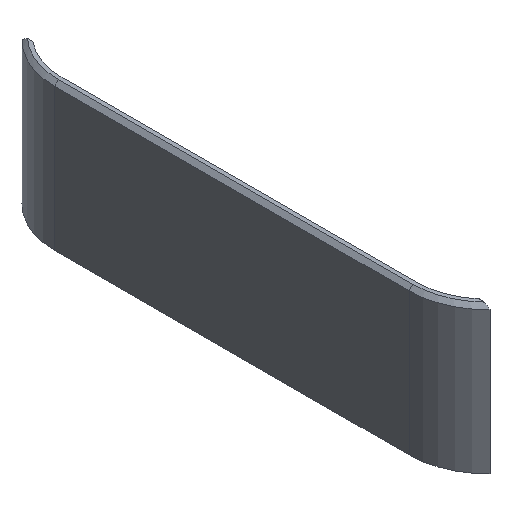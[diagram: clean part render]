
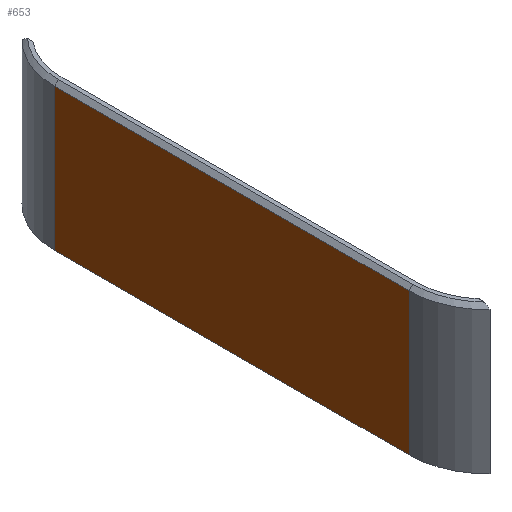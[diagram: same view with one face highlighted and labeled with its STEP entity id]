
A CAD part, isometric view. The second image highlights one B-rep face of the part: STEP entity #653.
In plain terms, the highlighted planar face has unit normal (-1, 0, 0).
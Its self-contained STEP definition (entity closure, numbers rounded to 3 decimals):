
#32 = PLANE('',#33);
#33 = AXIS2_PLACEMENT_3D('',#34,#35,#36);
#34 = CARTESIAN_POINT('',(39.789,-81.,41.5));
#35 = DIRECTION('',(0.,0.,-1.));
#36 = DIRECTION('',(1.,0.,0.));
#57 = VERTEX_POINT('',#58);
#58 = CARTESIAN_POINT('',(-131.338,-120.11,41.5));
#77 = CYLINDRICAL_SURFACE('',#78,17.35);
#78 = AXIS2_PLACEMENT_3D('',#79,#80,#81);
#79 = CARTESIAN_POINT('',(-113.988,-120.11,41.5));
#80 = DIRECTION('',(0.,0.,-1.));
#81 = DIRECTION('',(0.,1.,0.));
#89 = EDGE_CURVE('',#90,#57,#92,.T.);
#90 = VERTEX_POINT('',#91);
#91 = CARTESIAN_POINT('',(-131.338,-41.89,41.5));
#92 = SURFACE_CURVE('',#93,(#97,#104),.PCURVE_S1.);
#93 = LINE('',#94,#95);
#94 = CARTESIAN_POINT('',(-131.338,-26.89,41.5));
#95 = VECTOR('',#96,1.);
#96 = DIRECTION('',(0.,-1.,0.));
#97 = PCURVE('',#32,#98);
#98 = DEFINITIONAL_REPRESENTATION('',(#99),#103);
#99 = LINE('',#100,#101);
#100 = CARTESIAN_POINT('',(-171.126,-54.11));
#101 = VECTOR('',#102,1.);
#102 = DIRECTION('',(0.,1.));
#103 = ( GEOMETRIC_REPRESENTATION_CONTEXT(2) 
PARAMETRIC_REPRESENTATION_CONTEXT() REPRESENTATION_CONTEXT('2D SPACE',''
  ) );
#104 = PCURVE('',#105,#110);
#105 = PLANE('',#106);
#106 = AXIS2_PLACEMENT_3D('',#107,#108,#109);
#107 = CARTESIAN_POINT('',(-131.338,-41.89,41.5));
#108 = DIRECTION('',(1.,0.,0.));
#109 = DIRECTION('',(0.,-1.,0.));
#110 = DEFINITIONAL_REPRESENTATION('',(#111),#115);
#111 = LINE('',#112,#113);
#112 = CARTESIAN_POINT('',(-15.,0.));
#113 = VECTOR('',#114,1.);
#114 = DIRECTION('',(1.,0.));
#115 = ( GEOMETRIC_REPRESENTATION_CONTEXT(2) 
PARAMETRIC_REPRESENTATION_CONTEXT() REPRESENTATION_CONTEXT('2D SPACE',''
  ) );
#134 = CYLINDRICAL_SURFACE('',#135,17.35);
#135 = AXIS2_PLACEMENT_3D('',#136,#137,#138);
#136 = CARTESIAN_POINT('',(-113.988,-41.89,41.5));
#137 = DIRECTION('',(0.,-0.,-1.));
#138 = DIRECTION('',(0.,1.,0.));
#608 = EDGE_CURVE('',#90,#609,#611,.T.);
#609 = VERTEX_POINT('',#610);
#610 = CARTESIAN_POINT('',(-131.338,-41.89,72.85));
#611 = SURFACE_CURVE('',#612,(#616,#623),.PCURVE_S1.);
#612 = LINE('',#613,#614);
#613 = CARTESIAN_POINT('',(-131.338,-41.89,41.5));
#614 = VECTOR('',#615,1.);
#615 = DIRECTION('',(0.,0.,1.));
#616 = PCURVE('',#134,#617);
#617 = DEFINITIONAL_REPRESENTATION('',(#618),#622);
#618 = LINE('',#619,#620);
#619 = CARTESIAN_POINT('',(4.712,0.));
#620 = VECTOR('',#621,1.);
#621 = DIRECTION('',(0.,-1.));
#622 = ( GEOMETRIC_REPRESENTATION_CONTEXT(2) 
PARAMETRIC_REPRESENTATION_CONTEXT() REPRESENTATION_CONTEXT('2D SPACE',''
  ) );
#623 = PCURVE('',#105,#624);
#624 = DEFINITIONAL_REPRESENTATION('',(#625),#629);
#625 = LINE('',#626,#627);
#626 = CARTESIAN_POINT('',(0.,0.));
#627 = VECTOR('',#628,1.);
#628 = DIRECTION('',(0.,-1.));
#629 = ( GEOMETRIC_REPRESENTATION_CONTEXT(2) 
PARAMETRIC_REPRESENTATION_CONTEXT() REPRESENTATION_CONTEXT('2D SPACE',''
  ) );
#653 = ADVANCED_FACE('',(#654),#105,.F.);
#654 = FACE_BOUND('',#655,.F.);
#655 = EDGE_LOOP('',(#656,#657,#685,#706));
#656 = ORIENTED_EDGE('',*,*,#608,.T.);
#657 = ORIENTED_EDGE('',*,*,#658,.T.);
#658 = EDGE_CURVE('',#609,#659,#661,.T.);
#659 = VERTEX_POINT('',#660);
#660 = CARTESIAN_POINT('',(-131.338,-120.11,72.85));
#661 = SURFACE_CURVE('',#662,(#666,#673),.PCURVE_S1.);
#662 = LINE('',#663,#664);
#663 = CARTESIAN_POINT('',(-131.338,-26.89,72.85));
#664 = VECTOR('',#665,1.);
#665 = DIRECTION('',(0.,-1.,0.));
#666 = PCURVE('',#105,#667);
#667 = DEFINITIONAL_REPRESENTATION('',(#668),#672);
#668 = LINE('',#669,#670);
#669 = CARTESIAN_POINT('',(-15.,-31.35));
#670 = VECTOR('',#671,1.);
#671 = DIRECTION('',(1.,0.));
#672 = ( GEOMETRIC_REPRESENTATION_CONTEXT(2) 
PARAMETRIC_REPRESENTATION_CONTEXT() REPRESENTATION_CONTEXT('2D SPACE',''
  ) );
#673 = PCURVE('',#674,#679);
#674 = PLANE('',#675);
#675 = AXIS2_PLACEMENT_3D('',#676,#677,#678);
#676 = CARTESIAN_POINT('',(-130.488,-26.89,73.7));
#677 = DIRECTION('',(-0.707,0.,0.707)
  );
#678 = DIRECTION('',(0.,-1.,0.));
#679 = DEFINITIONAL_REPRESENTATION('',(#680),#684);
#680 = LINE('',#681,#682);
#681 = CARTESIAN_POINT('',(0.,-1.202));
#682 = VECTOR('',#683,1.);
#683 = DIRECTION('',(1.,0.));
#684 = ( GEOMETRIC_REPRESENTATION_CONTEXT(2) 
PARAMETRIC_REPRESENTATION_CONTEXT() REPRESENTATION_CONTEXT('2D SPACE',''
  ) );
#685 = ORIENTED_EDGE('',*,*,#686,.F.);
#686 = EDGE_CURVE('',#57,#659,#687,.T.);
#687 = SURFACE_CURVE('',#688,(#692,#699),.PCURVE_S1.);
#688 = LINE('',#689,#690);
#689 = CARTESIAN_POINT('',(-131.338,-120.11,41.5));
#690 = VECTOR('',#691,1.);
#691 = DIRECTION('',(0.,0.,1.));
#692 = PCURVE('',#105,#693);
#693 = DEFINITIONAL_REPRESENTATION('',(#694),#698);
#694 = LINE('',#695,#696);
#695 = CARTESIAN_POINT('',(78.22,-0.));
#696 = VECTOR('',#697,1.);
#697 = DIRECTION('',(0.,-1.));
#698 = ( GEOMETRIC_REPRESENTATION_CONTEXT(2) 
PARAMETRIC_REPRESENTATION_CONTEXT() REPRESENTATION_CONTEXT('2D SPACE',''
  ) );
#699 = PCURVE('',#77,#700);
#700 = DEFINITIONAL_REPRESENTATION('',(#701),#705);
#701 = LINE('',#702,#703);
#702 = CARTESIAN_POINT('',(-1.571,0.));
#703 = VECTOR('',#704,1.);
#704 = DIRECTION('',(-0.,-1.));
#705 = ( GEOMETRIC_REPRESENTATION_CONTEXT(2) 
PARAMETRIC_REPRESENTATION_CONTEXT() REPRESENTATION_CONTEXT('2D SPACE',''
  ) );
#706 = ORIENTED_EDGE('',*,*,#89,.F.);
